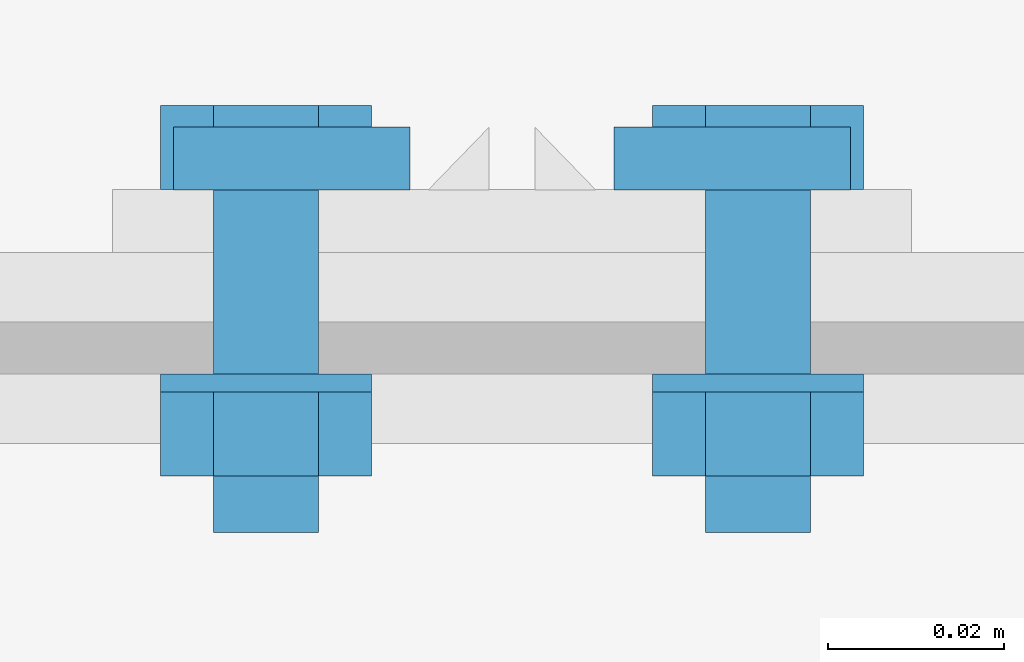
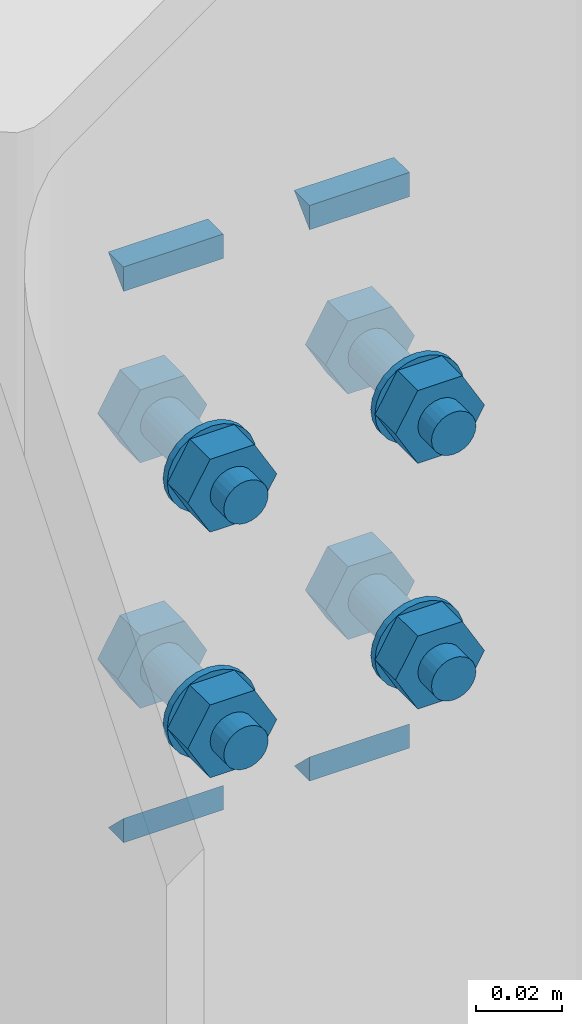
# One storey, part 56 of 251: 16 mechanical fasteners, 8 fasteners.
"""IFC4 building model written with IfcOpenShell, lengths in metres."""

from ifc_helpers import new_model, si_unit, frame, origin_with_axes, place, context, project, spatial, polyline, outline, extrude, type_object, element, save


model = new_model("IFC4")

# Units and contexts
model_context = context("Model", 3, precision=1e-05, world=origin_with_axes())
ifc_project = project(units=[si_unit("LENGTHUNIT", "METRE"), si_unit("AREAUNIT", "SQUARE_METRE"), si_unit("VOLUMEUNIT", "CUBIC_METRE"), si_unit("MASSUNIT", "GRAM", prefix="KILO"), si_unit("TIMEUNIT", "SECOND"), si_unit("PLANEANGLEUNIT", "RADIAN"), si_unit("SOLIDANGLEUNIT", "STERADIAN"), si_unit("THERMODYNAMICTEMPERATUREUNIT", "DEGREE_CELSIUS")], contexts=[model_context])

# Site, building, storey
placement_1 = place(None, origin_with_axes())
site = spatial("IfcSite", under=ifc_project, at=placement_1, Name="Italia", CompositionType="ELEMENT")
building = spatial("IfcBuilding", under=site, at=placement_1, Name="Deposito", CompositionType="ELEMENT")
storey = spatial("IfcBuildingStorey", under=building, at=placement_1, Name="Storey 0", CompositionType="ELEMENT", Elevation=0.0)

# Fasteners
fastener_type_1 = type_object("IfcFastenerType", Name="Collegamento -069_-070", PredefinedType="WELD")
placement_2 = place(placement_1, origin_with_axes())
fastener_1_placement = place(placement_2, origin_with_axes())
element("IfcFastener", 1, at=fastener_1_placement, inside=storey, type_object=fastener_type_1, Name="Collegamento -069_-070", context=model_context, shape_type="SweptSolid", body=[
    extrude(outline(polyline([(0.0, 0.0), (-0.00717336, 0.00695801), (0.0, 0.00695801), (0.0, 0.0)])), frame((6.0384, 0.01795, 6.89527), z_axis=(-1.0, 0.0, 0.0), x_axis=(0.0, -1.0, 0.0)), (0.0, 0.0, 1.0), 0.0269499),
])
fastener_type_2 = type_object("IfcFastenerType", Name="Collegamento -069_-070", PredefinedType="WELD")
fastener_2_placement = place(placement_2, origin_with_axes())
element("IfcFastener", 2, at=fastener_2_placement, inside=storey, type_object=fastener_type_2, Name="Collegamento -069_-070", context=model_context, shape_type="SweptSolid", body=[
    extrude(outline(polyline([(0.0, 0.0), (0.00717336, -0.00695801), (0.0, -0.00695801), (0.0, 0.0)])), frame((6.01145, 0.01795, 6.74509), z_axis=(1.0, 0.0, 0.0), x_axis=(0.0, 1.0, 0.0)), (0.0, 0.0, 1.0), 0.0269499),
])
fastener_type_3 = type_object("IfcFastenerType", Name="Collegamento -069_-070", PredefinedType="WELD")
fastener_3_placement = place(placement_2, origin_with_axes())
element("IfcFastener", 3, at=fastener_3_placement, inside=storey, type_object=fastener_type_3, Name="Collegamento -069_-070", context=model_context, shape_type="SweptSolid", body=[
    extrude(outline(polyline([(0.0, 0.0), (0.00717336, -0.00695801), (0.0, -0.00695801), (0.0, 0.0)])), frame((6.0616, 0.01795, 6.74509), z_axis=(1.0, 0.0, 0.0), x_axis=(0.0, 1.0, 0.0)), (0.0, 0.0, 1.0), 0.0269499),
])
fastener_type_4 = type_object("IfcFastenerType", Name="Collegamento -069_-070", PredefinedType="WELD")
fastener_4_placement = place(placement_2, origin_with_axes())
element("IfcFastener", 4, at=fastener_4_placement, inside=storey, type_object=fastener_type_4, Name="Collegamento -069_-070", context=model_context, shape_type="SweptSolid", body=[
    extrude(outline(polyline([(0.0, 0.0), (-0.00717336, 0.00695801), (0.0, 0.00695801), (0.0, 0.0)])), frame((6.08855, 0.01795, 6.89527), z_axis=(-1.0, 0.0, 0.0), x_axis=(0.0, -1.0, 0.0)), (0.0, 0.0, 1.0), 0.0269499),
])
fastener_type_5 = type_object("IfcFastenerType", Name="Collegamento -069_-070", PredefinedType="WELD")
fastener_5_placement = place(placement_2, origin_with_axes())
element("IfcFastener", 5, at=fastener_5_placement, inside=storey, type_object=fastener_type_5, Name="Collegamento -069_-070", context=model_context, shape_type="SweptSolid", body=[
    extrude(outline(polyline([(0.0, 0.0), (-0.00717336, 0.00695801), (0.0, 0.00695801), (0.0, 0.0)])), frame((6.0384, 0.01795, 6.89527), z_axis=(-1.0, 0.0, 0.0), x_axis=(0.0, -1.0, 0.0)), (0.0, 0.0, 1.0), 0.0269499),
])
fastener_type_6 = type_object("IfcFastenerType", Name="Collegamento -069_-070", PredefinedType="WELD")
fastener_6_placement = place(placement_2, origin_with_axes())
element("IfcFastener", 6, at=fastener_6_placement, inside=storey, type_object=fastener_type_6, Name="Collegamento -069_-070", context=model_context, shape_type="SweptSolid", body=[
    extrude(outline(polyline([(0.0, 0.0), (0.00717336, -0.00695801), (0.0, -0.00695801), (0.0, 0.0)])), frame((6.01145, 0.01795, 6.74509), z_axis=(1.0, 0.0, 0.0), x_axis=(0.0, 1.0, 0.0)), (0.0, 0.0, 1.0), 0.0269499),
])
fastener_type_7 = type_object("IfcFastenerType", Name="Collegamento -069_-070", PredefinedType="WELD")
fastener_7_placement = place(placement_2, origin_with_axes())
element("IfcFastener", 7, at=fastener_7_placement, inside=storey, type_object=fastener_type_7, Name="Collegamento -069_-070", context=model_context, shape_type="SweptSolid", body=[
    extrude(outline(polyline([(0.0, 0.0), (0.00717336, -0.00695801), (0.0, -0.00695801), (0.0, 0.0)])), frame((6.0616, 0.01795, 6.74509), z_axis=(1.0, 0.0, 0.0), x_axis=(0.0, 1.0, 0.0)), (0.0, 0.0, 1.0), 0.0269499),
])
fastener_type_8 = type_object("IfcFastenerType", Name="Collegamento -069_-070", PredefinedType="WELD")
fastener_8_placement = place(placement_2, origin_with_axes())
element("IfcFastener", 8, at=fastener_8_placement, inside=storey, type_object=fastener_type_8, Name="Collegamento -069_-070", context=model_context, shape_type="SweptSolid", body=[
    extrude(outline(polyline([(0.0, 0.0), (-0.00717336, 0.00695801), (0.0, 0.00695801), (0.0, 0.0)])), frame((6.08855, 0.01795, 6.89527), z_axis=(-1.0, 0.0, 0.0), x_axis=(0.0, -1.0, 0.0)), (0.0, 0.0, 1.0), 0.0269499),
])

# Mechanical fasteners
mechanical_fastener_type_1 = type_object("IfcMechanicalFastenerType", Name="Collegamento -069_-070", PredefinedType="BOLT")
mechanical_fastener_1_placement = place(placement_2, origin_with_axes())
element("IfcMechanicalFastener", 9, at=mechanical_fastener_1_placement, inside=storey, type_object=mechanical_fastener_type_1, Name="Collegamento -069_-070", NominalDiameter=0.0119999, context=model_context, shape_type="SweptSolid", body=[
    extrude(outline(polyline([(0.0, 0.0), (-0.0120001, 0.0), (-0.0180001, 0.0103927), (-0.0120001, 0.0207849), (0.0, 0.0207849), (0.00600004, 0.0103927), (0.0, 0.0)])), frame((6.072, 0.018, 6.77479), z_axis=(0.0, 1.0, 0.0), x_axis=(-1.0, 0.0, 0.0)), (0.0, 0.0, 1.0), 0.0096),
])
mechanical_fastener_type_2 = type_object("IfcMechanicalFastenerType", Name="Collegamento -069_-070", PredefinedType="BOLT")
mechanical_fastener_2_placement = place(placement_2, origin_with_axes())
element("IfcMechanicalFastener", 10, at=mechanical_fastener_2_placement, inside=storey, type_object=mechanical_fastener_type_2, Name="Collegamento -069_-070", NominalDiameter=0.012, context=model_context, shape_type="SweptSolid", body=[
    extrude(outline(polyline([(0.0, 0.0), (-0.000204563, -0.00155306), (-0.000803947, -0.00299978), (-0.00175762, -0.00424242), (-0.00300026, -0.00519609), (-0.00444698, -0.00579548), (-0.00600004, -0.00600004), (-0.0075531, -0.00579548), (-0.00899982, -0.00519609), (-0.0102425, -0.00424242), (-0.0111961, -0.00299978), (-0.0117955, -0.00155306), (-0.0120001, 0.0), (-0.0117955, 0.00155306), (-0.0111961, 0.00299978), (-0.0102425, 0.00424242), (-0.00899982, 0.00519609), (-0.0075531, 0.00579548), (-0.00600004, 0.00600004), (-0.00444698, 0.00579548), (-0.00300026, 0.00519609), (-0.00175762, 0.00424242), (-0.000803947, 0.00299978), (-0.000204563, 0.00155306), (0.0, 0.0)])), frame((6.072, -0.021, 6.78518), z_axis=(0.0, 1.0, 0.0), x_axis=(-1.0, 0.0, 0.0)), (0.0, 0.0, 1.0), 0.039),
])
mechanical_fastener_type_3 = type_object("IfcMechanicalFastenerType", Name="Collegamento -069_-070", PredefinedType="BOLT")
mechanical_fastener_3_placement = place(placement_2, origin_with_axes())
element("IfcMechanicalFastener", 11, at=mechanical_fastener_3_placement, inside=storey, type_object=mechanical_fastener_type_3, Name="Collegamento -069_-070", NominalDiameter=0.0119999, context=model_context, shape_type="SweptSolid", body=[
    extrude(outline(polyline([(0.0, 0.0), (-0.0120001, 0.0), (-0.0180001, 0.0103927), (-0.0120001, 0.0207849), (0.0, 0.0207849), (0.00600004, 0.0103927), (0.0, 0.0)])), frame((6.072, -0.0146, 6.77479), z_axis=(0.0, 1.0, 0.0), x_axis=(-1.0, 0.0, 0.0)), (0.0, 0.0, 1.0), 0.0096),
])
mechanical_fastener_type_4 = type_object("IfcMechanicalFastenerType", Name="Collegamento -069_-070", PredefinedType="BOLT")
mechanical_fastener_4_placement = place(placement_2, origin_with_axes())
element("IfcMechanicalFastener", 12, at=mechanical_fastener_4_placement, inside=storey, type_object=mechanical_fastener_type_4, Name="Collegamento -069_-070", NominalDiameter=0.024, context=model_context, shape_type="SweptSolid", body=[
    extrude(outline(polyline([(0.0, 0.0), (-0.000409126, -0.00310564), (-0.00160789, -0.00600004), (-0.00351477, -0.00848532), (-0.00600004, -0.0103922), (-0.00889444, -0.011591), (-0.0120001, -0.0120001), (-0.0151057, -0.011591), (-0.0180001, -0.0103922), (-0.0204854, -0.00848532), (-0.0223923, -0.00600004), (-0.023591, -0.00310564), (-0.0240002, 0.0), (-0.023591, 0.00310564), (-0.0223923, 0.00600004), (-0.0204854, 0.00848532), (-0.0180001, 0.0103922), (-0.0151057, 0.011591), (-0.0120001, 0.0120001), (-0.00889444, 0.011591), (-0.00600004, 0.0103922), (-0.00351477, 0.00848532), (-0.00160789, 0.00600004), (-0.000409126, 0.00310564), (0.0, 0.0)])), frame((6.066, -0.005, 6.78518), z_axis=(0.0, 1.0, 0.0), x_axis=(-1.0, 0.0, 0.0)), (0.0, 0.0, 1.0), 0.002),
])
mechanical_fastener_type_5 = type_object("IfcMechanicalFastenerType", Name="Collegamento -069_-070", PredefinedType="BOLT")
mechanical_fastener_5_placement = place(placement_2, origin_with_axes())
element("IfcMechanicalFastener", 13, at=mechanical_fastener_5_placement, inside=storey, type_object=mechanical_fastener_type_5, Name="Collegamento -069_-070", NominalDiameter=0.0119999, context=model_context, shape_type="SweptSolid", body=[
    extrude(outline(polyline([(0.0, 0.0), (-0.0120001, 0.0), (-0.0180001, 0.0103927), (-0.0120001, 0.0207849), (0.0, 0.0207849), (0.00600004, 0.0103927), (0.0, 0.0)])), frame((6.016, 0.018, 6.77479), z_axis=(0.0, 1.0, 0.0), x_axis=(-1.0, 0.0, 0.0)), (0.0, 0.0, 1.0), 0.0096),
])
mechanical_fastener_type_6 = type_object("IfcMechanicalFastenerType", Name="Collegamento -069_-070", PredefinedType="BOLT")
mechanical_fastener_6_placement = place(placement_2, origin_with_axes())
element("IfcMechanicalFastener", 14, at=mechanical_fastener_6_placement, inside=storey, type_object=mechanical_fastener_type_6, Name="Collegamento -069_-070", NominalDiameter=0.012, context=model_context, shape_type="SweptSolid", body=[
    extrude(outline(polyline([(0.0, 0.0), (-0.000204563, -0.00155306), (-0.000803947, -0.00299978), (-0.00175762, -0.00424242), (-0.00300026, -0.00519609), (-0.00444698, -0.00579548), (-0.00600004, -0.00600004), (-0.0075531, -0.00579548), (-0.00899982, -0.00519609), (-0.0102425, -0.00424242), (-0.0111961, -0.00299978), (-0.0117955, -0.00155306), (-0.0120001, 0.0), (-0.0117955, 0.00155306), (-0.0111961, 0.00299978), (-0.0102425, 0.00424242), (-0.00899982, 0.00519609), (-0.0075531, 0.00579548), (-0.00600004, 0.00600004), (-0.00444698, 0.00579548), (-0.00300026, 0.00519609), (-0.00175762, 0.00424242), (-0.000803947, 0.00299978), (-0.000204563, 0.00155306), (0.0, 0.0)])), frame((6.016, -0.021, 6.78518), z_axis=(0.0, 1.0, 0.0), x_axis=(-1.0, 0.0, 0.0)), (0.0, 0.0, 1.0), 0.039),
])
mechanical_fastener_type_7 = type_object("IfcMechanicalFastenerType", Name="Collegamento -069_-070", PredefinedType="BOLT")
mechanical_fastener_7_placement = place(placement_2, origin_with_axes())
element("IfcMechanicalFastener", 15, at=mechanical_fastener_7_placement, inside=storey, type_object=mechanical_fastener_type_7, Name="Collegamento -069_-070", NominalDiameter=0.0119999, context=model_context, shape_type="SweptSolid", body=[
    extrude(outline(polyline([(0.0, 0.0), (-0.0120001, 0.0), (-0.0180001, 0.0103927), (-0.0120001, 0.0207849), (0.0, 0.0207849), (0.00600004, 0.0103927), (0.0, 0.0)])), frame((6.016, -0.0146, 6.77479), z_axis=(0.0, 1.0, 0.0), x_axis=(-1.0, 0.0, 0.0)), (0.0, 0.0, 1.0), 0.0096),
])
mechanical_fastener_type_8 = type_object("IfcMechanicalFastenerType", Name="Collegamento -069_-070", PredefinedType="BOLT")
mechanical_fastener_8_placement = place(placement_2, origin_with_axes())
element("IfcMechanicalFastener", 16, at=mechanical_fastener_8_placement, inside=storey, type_object=mechanical_fastener_type_8, Name="Collegamento -069_-070", NominalDiameter=0.024, context=model_context, shape_type="SweptSolid", body=[
    extrude(outline(polyline([(0.0, 0.0), (-0.000409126, -0.00310564), (-0.00160789, -0.00600004), (-0.00351477, -0.00848532), (-0.00600004, -0.0103922), (-0.00889444, -0.011591), (-0.0120001, -0.0120001), (-0.0151057, -0.011591), (-0.0180001, -0.0103922), (-0.0204854, -0.00848532), (-0.0223923, -0.00600004), (-0.023591, -0.00310564), (-0.0240002, 0.0), (-0.023591, 0.00310564), (-0.0223923, 0.00600004), (-0.0204854, 0.00848532), (-0.0180001, 0.0103922), (-0.0151057, 0.011591), (-0.0120001, 0.0120001), (-0.00889444, 0.011591), (-0.00600004, 0.0103922), (-0.00351477, 0.00848532), (-0.00160789, 0.00600004), (-0.000409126, 0.00310564), (0.0, 0.0)])), frame((6.01, -0.005, 6.78518), z_axis=(0.0, 1.0, 0.0), x_axis=(-1.0, 0.0, 0.0)), (0.0, 0.0, 1.0), 0.002),
])
mechanical_fastener_type_9 = type_object("IfcMechanicalFastenerType", Name="Collegamento -069_-070", PredefinedType="BOLT")
mechanical_fastener_9_placement = place(placement_2, origin_with_axes())
element("IfcMechanicalFastener", 17, at=mechanical_fastener_9_placement, inside=storey, type_object=mechanical_fastener_type_9, Name="Collegamento -069_-070", NominalDiameter=0.0119999, context=model_context, shape_type="SweptSolid", body=[
    extrude(outline(polyline([(0.0, 0.0), (-0.0120001, 0.0), (-0.0180001, 0.0103922), (-0.0120001, 0.0207849), (0.0, 0.0207849), (0.00600004, 0.0103922), (0.0, 0.0)])), frame((6.072, 0.018, 6.84479), z_axis=(0.0, 1.0, 0.0), x_axis=(-1.0, 0.0, 0.0)), (0.0, 0.0, 1.0), 0.0096),
])
mechanical_fastener_type_10 = type_object("IfcMechanicalFastenerType", Name="Collegamento -069_-070", PredefinedType="BOLT")
mechanical_fastener_10_placement = place(placement_2, origin_with_axes())
element("IfcMechanicalFastener", 18, at=mechanical_fastener_10_placement, inside=storey, type_object=mechanical_fastener_type_10, Name="Collegamento -069_-070", NominalDiameter=0.012, context=model_context, shape_type="SweptSolid", body=[
    extrude(outline(polyline([(0.0, 0.0), (-0.000204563, -0.00155306), (-0.000803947, -0.00299978), (-0.00175762, -0.00424242), (-0.00300026, -0.00519609), (-0.00444698, -0.00579548), (-0.00600004, -0.00600004), (-0.0075531, -0.00579548), (-0.00899982, -0.00519609), (-0.0102425, -0.00424242), (-0.0111961, -0.00299978), (-0.0117955, -0.00155306), (-0.0120001, 0.0), (-0.0117955, 0.00155306), (-0.0111961, 0.00299978), (-0.0102425, 0.00424242), (-0.00899982, 0.00519609), (-0.0075531, 0.00579548), (-0.00600004, 0.00600004), (-0.00444698, 0.00579548), (-0.00300026, 0.00519609), (-0.00175762, 0.00424242), (-0.000803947, 0.00299978), (-0.000204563, 0.00155306), (0.0, 0.0)])), frame((6.072, -0.021, 6.85518), z_axis=(0.0, 1.0, 0.0), x_axis=(-1.0, 0.0, 0.0)), (0.0, 0.0, 1.0), 0.039),
])
mechanical_fastener_type_11 = type_object("IfcMechanicalFastenerType", Name="Collegamento -069_-070", PredefinedType="BOLT")
mechanical_fastener_11_placement = place(placement_2, origin_with_axes())
element("IfcMechanicalFastener", 19, at=mechanical_fastener_11_placement, inside=storey, type_object=mechanical_fastener_type_11, Name="Collegamento -069_-070", NominalDiameter=0.0119999, context=model_context, shape_type="SweptSolid", body=[
    extrude(outline(polyline([(0.0, 0.0), (-0.0120001, 0.0), (-0.0180001, 0.0103922), (-0.0120001, 0.0207849), (0.0, 0.0207849), (0.00600004, 0.0103922), (0.0, 0.0)])), frame((6.072, -0.0146, 6.84479), z_axis=(0.0, 1.0, 0.0), x_axis=(-1.0, 0.0, 0.0)), (0.0, 0.0, 1.0), 0.0096),
])
mechanical_fastener_type_12 = type_object("IfcMechanicalFastenerType", Name="Collegamento -069_-070", PredefinedType="BOLT")
mechanical_fastener_12_placement = place(placement_2, origin_with_axes())
element("IfcMechanicalFastener", 20, at=mechanical_fastener_12_placement, inside=storey, type_object=mechanical_fastener_type_12, Name="Collegamento -069_-070", NominalDiameter=0.024, context=model_context, shape_type="SweptSolid", body=[
    extrude(outline(polyline([(0.0, 0.0), (-0.000409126, -0.00310564), (-0.00160789, -0.00600004), (-0.00351477, -0.00848532), (-0.00600004, -0.0103922), (-0.00889444, -0.011591), (-0.0120001, -0.0120001), (-0.0151057, -0.011591), (-0.0180001, -0.0103922), (-0.0204854, -0.00848532), (-0.0223923, -0.00600004), (-0.023591, -0.00310564), (-0.0240002, 0.0), (-0.023591, 0.00310564), (-0.0223923, 0.00600004), (-0.0204854, 0.00848532), (-0.0180001, 0.0103922), (-0.0151057, 0.011591), (-0.0120001, 0.0120001), (-0.00889444, 0.011591), (-0.00600004, 0.0103922), (-0.00351477, 0.00848532), (-0.00160789, 0.00600004), (-0.000409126, 0.00310564), (0.0, 0.0)])), frame((6.066, -0.005, 6.85518), z_axis=(0.0, 1.0, 0.0), x_axis=(-1.0, 0.0, 0.0)), (0.0, 0.0, 1.0), 0.002),
])
mechanical_fastener_type_13 = type_object("IfcMechanicalFastenerType", Name="Collegamento -069_-070", PredefinedType="BOLT")
mechanical_fastener_13_placement = place(placement_2, origin_with_axes())
element("IfcMechanicalFastener", 21, at=mechanical_fastener_13_placement, inside=storey, type_object=mechanical_fastener_type_13, Name="Collegamento -069_-070", NominalDiameter=0.0119999, context=model_context, shape_type="SweptSolid", body=[
    extrude(outline(polyline([(0.0, 0.0), (-0.0120001, 0.0), (-0.0180001, 0.0103922), (-0.0120001, 0.0207849), (0.0, 0.0207849), (0.00600004, 0.0103922), (0.0, 0.0)])), frame((6.016, 0.018, 6.84479), z_axis=(0.0, 1.0, 0.0), x_axis=(-1.0, 0.0, 0.0)), (0.0, 0.0, 1.0), 0.0096),
])
mechanical_fastener_type_14 = type_object("IfcMechanicalFastenerType", Name="Collegamento -069_-070", PredefinedType="BOLT")
mechanical_fastener_14_placement = place(placement_2, origin_with_axes())
element("IfcMechanicalFastener", 22, at=mechanical_fastener_14_placement, inside=storey, type_object=mechanical_fastener_type_14, Name="Collegamento -069_-070", NominalDiameter=0.012, context=model_context, shape_type="SweptSolid", body=[
    extrude(outline(polyline([(0.0, 0.0), (-0.000204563, -0.00155306), (-0.000803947, -0.00299978), (-0.00175762, -0.00424242), (-0.00300026, -0.00519609), (-0.00444698, -0.00579548), (-0.00600004, -0.00600004), (-0.0075531, -0.00579548), (-0.00899982, -0.00519609), (-0.0102425, -0.00424242), (-0.0111961, -0.00299978), (-0.0117955, -0.00155306), (-0.0120001, 0.0), (-0.0117955, 0.00155306), (-0.0111961, 0.00299978), (-0.0102425, 0.00424242), (-0.00899982, 0.00519609), (-0.0075531, 0.00579548), (-0.00600004, 0.00600004), (-0.00444698, 0.00579548), (-0.00300026, 0.00519609), (-0.00175762, 0.00424242), (-0.000803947, 0.00299978), (-0.000204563, 0.00155306), (0.0, 0.0)])), frame((6.016, -0.021, 6.85518), z_axis=(0.0, 1.0, 0.0), x_axis=(-1.0, 0.0, 0.0)), (0.0, 0.0, 1.0), 0.039),
])
mechanical_fastener_type_15 = type_object("IfcMechanicalFastenerType", Name="Collegamento -069_-070", PredefinedType="BOLT")
mechanical_fastener_15_placement = place(placement_2, origin_with_axes())
element("IfcMechanicalFastener", 23, at=mechanical_fastener_15_placement, inside=storey, type_object=mechanical_fastener_type_15, Name="Collegamento -069_-070", NominalDiameter=0.0119999, context=model_context, shape_type="SweptSolid", body=[
    extrude(outline(polyline([(0.0, 0.0), (-0.0120001, 0.0), (-0.0180001, 0.0103922), (-0.0120001, 0.0207849), (0.0, 0.0207849), (0.00600004, 0.0103922), (0.0, 0.0)])), frame((6.016, -0.0146, 6.84479), z_axis=(0.0, 1.0, 0.0), x_axis=(-1.0, 0.0, 0.0)), (0.0, 0.0, 1.0), 0.0096),
])
mechanical_fastener_type_16 = type_object("IfcMechanicalFastenerType", Name="Collegamento -069_-070", PredefinedType="BOLT")
mechanical_fastener_16_placement = place(placement_2, origin_with_axes())
element("IfcMechanicalFastener", 24, at=mechanical_fastener_16_placement, inside=storey, type_object=mechanical_fastener_type_16, Name="Collegamento -069_-070", NominalDiameter=0.024, context=model_context, shape_type="SweptSolid", body=[
    extrude(outline(polyline([(0.0, 0.0), (-0.000409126, -0.00310564), (-0.00160789, -0.00600004), (-0.00351477, -0.00848532), (-0.00600004, -0.0103922), (-0.00889444, -0.011591), (-0.0120001, -0.0120001), (-0.0151057, -0.011591), (-0.0180001, -0.0103922), (-0.0204854, -0.00848532), (-0.0223923, -0.00600004), (-0.023591, -0.00310564), (-0.0240002, 0.0), (-0.023591, 0.00310564), (-0.0223923, 0.00600004), (-0.0204854, 0.00848532), (-0.0180001, 0.0103922), (-0.0151057, 0.011591), (-0.0120001, 0.0120001), (-0.00889444, 0.011591), (-0.00600004, 0.0103922), (-0.00351477, 0.00848532), (-0.00160789, 0.00600004), (-0.000409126, 0.00310564), (0.0, 0.0)])), frame((6.01, -0.005, 6.85518), z_axis=(0.0, 1.0, 0.0), x_axis=(-1.0, 0.0, 0.0)), (0.0, 0.0, 1.0), 0.002),
])

save(model, "model.ifc")
